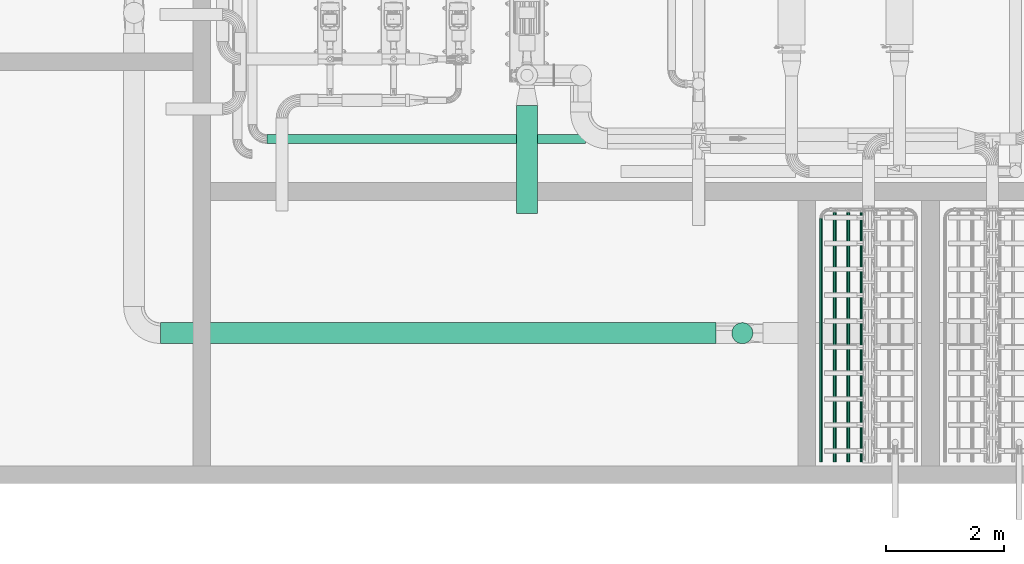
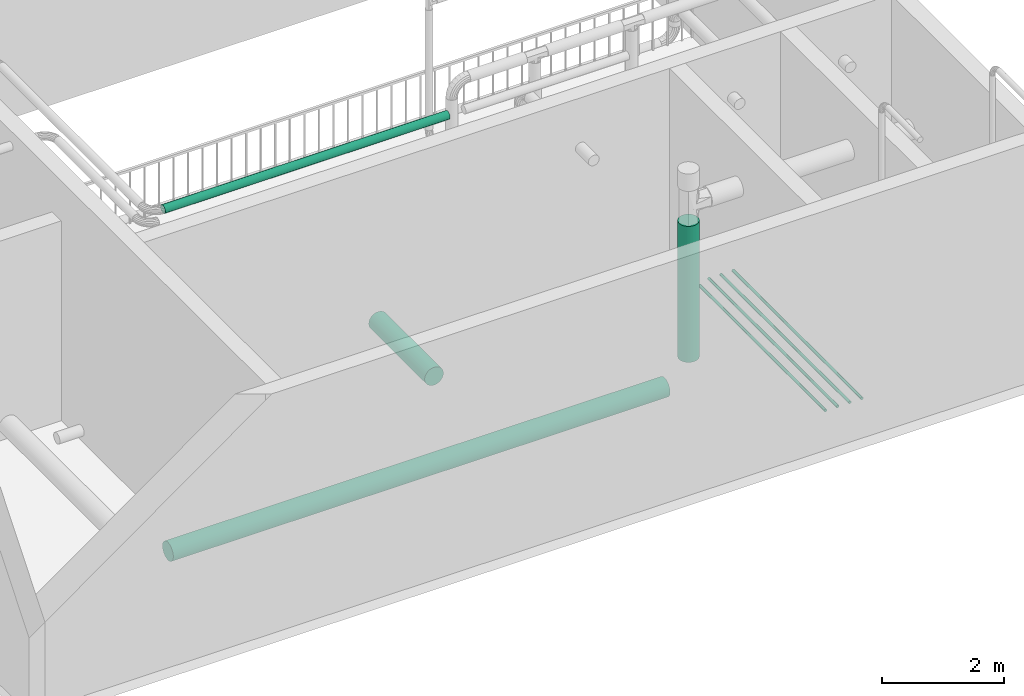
# One storey, part 5 of 28: 8 flow segments.
"""IFC2X3 building model written with IfcOpenShell, lengths in millimetres."""

from ifc_helpers import new_model, entity, si_unit, converted_unit, direction, frame, frame_2d, origin, origin_2d_with_axis, place, context, subcontext, project, spatial, circle, extrude, material, type_object, element, save


model = new_model("IFC2X3")

# Units and contexts
model_context = context("Model", 3, precision=0.01, world=origin(), true_north=direction((6.123031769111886e-17, 1.0)))
body_context = subcontext(model_context, "Body", "Model", "MODEL_VIEW")
ifc_project = project(units=[si_unit("LENGTHUNIT", "METRE", prefix="MILLI"), converted_unit("PLANEANGLEUNIT", "DEGREE", entity("IfcPlaneAngleMeasure", 0.017453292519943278), si_unit("PLANEANGLEUNIT", "RADIAN"), dimensions=[0, 0, 0, 0, 0, 0, 0]), si_unit("AREAUNIT", "SQUARE_METRE")], contexts=[model_context])

# Site, building, storey
site_placement = place(None, frame((7776.576483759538, 118.3519876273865, 0.0)))
site = spatial("IfcSite", under=ifc_project, at=site_placement, Name="Default", CompositionType="ELEMENT")
building_placement = place(site_placement, origin())
building = spatial("IfcBuilding", under=site, at=building_placement, Name="Bygning (endres i Project Information)", CompositionType="ELEMENT")
storey_placement = place(building_placement, frame((0.0, 0.0, 14000.0)))
storey = spatial("IfcBuildingStorey", under=building, at=storey_placement, Name="Plan U1 - Arbeid", CompositionType="ELEMENT", Elevation=14000.000000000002)

# Flow segments
ifc_material = material(Name="SS 2343 Rustfritt stål, prosessrør, generisk")
pipe_segment_type = type_object("IfcPipeSegmentType", Name="Pipe Types:AISI 304L Rustfritt", PredefinedType="NOTDEFINED", material=ifc_material)
flow_segment_1_placement = place(storey_placement, origin())
element("IfcFlowSegment", 1, at=flow_segment_1_placement, inside=storey, type_object=pipe_segment_type, Name="Pipe Types:AISI 304L Rustfritt", ObjectType="Pipe Types:AISI 304L Rustfritt", context=body_context, shape_type="SweptSolid", body=[
    extrude(circle(Radius=78.0, at=frame_2d((0.0, -2.1657342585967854e-12), x_axis=(1.0, 0.0))), frame((18780.00137486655, 25237.75730578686, 4500.0), z_axis=(1.0, 0.0, 0.0), x_axis=(0.0, 1.0, 0.0)), (0.0, 0.0, 1.0), 5394.00000000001),
])
flow_segment_2_placement = place(storey_placement, origin())
element("IfcFlowSegment", 2, at=flow_segment_2_placement, inside=storey, type_object=pipe_segment_type, Name="Pipe Types:AISI 304L Rustfritt", ObjectType="Pipe Types:AISI 304L Rustfritt", context=body_context, shape_type="SweptSolid", body=[
    extrude(circle(Radius=178.0, at=frame_2d((4.331468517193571e-12, 2.1657342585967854e-12), x_axis=(1.0, 0.0))), frame((23184.00137486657, 23972.377048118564, 380.0), z_axis=(0.0, 1.0, 0.0), x_axis=(-1.0, 0.0, 0.0)), (0.0, 0.0, 1.0), 1836.122862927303),
])
flow_segment_3_placement = place(storey_placement, origin())
element("IfcFlowSegment", 3, at=flow_segment_3_placement, inside=storey, type_object=pipe_segment_type, Name="Pipe Types:AISI 304L Rustfritt", ObjectType="Pipe Types:AISI 304L Rustfritt", context=body_context, shape_type="SweptSolid", body=[
    extrude(circle(Radius=178.0, at=origin_2d_with_axis()), frame((26834.001374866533, 21947.75730578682, 728.0)), (0.0, 0.0, 1.0), 2724.9999999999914),
])
flow_segment_4_placement = place(storey_placement, origin())
element("IfcFlowSegment", 4, at=flow_segment_4_placement, inside=storey, type_object=pipe_segment_type, Name="Pipe Types:AISI 304L Rustfritt", ObjectType="Pipe Types:AISI 304L Rustfritt", context=body_context, shape_type="SweptSolid", body=[
    extrude(circle(Radius=178.0, at=frame_2d((-2.1657342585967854e-11, 1.5160139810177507e-11), x_axis=(1.0, 0.0))), frame((16974.001374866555, 21947.757305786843, 278.0), z_axis=(1.0, 0.0, 0.0), x_axis=(0.0, 1.0, 0.0)), (0.0, 0.0, 1.0), 9409.99999999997),
])
flow_segment_5_placement = place(storey_placement, origin())
element("IfcFlowSegment", 5, at=flow_segment_5_placement, inside=storey, type_object=pipe_segment_type, Name="Pipe Types:AISI 304L Rustfritt", ObjectType="Pipe Types:AISI 304L Rustfritt", context=body_context, shape_type="SweptSolid", body=[
    extrude(circle(Radius=27.0, at=frame_2d((-4.331468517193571e-12, 0.0), x_axis=(1.0, 0.0))), frame((28169.00137486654, 19762.757305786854, 500.0), z_axis=(0.0, 1.0, 0.0), x_axis=(-1.0, 0.0, 0.0)), (0.0, 0.0, 1.0), 4130.000000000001),
])
flow_segment_6_placement = place(storey_placement, origin())
element("IfcFlowSegment", 6, at=flow_segment_6_placement, inside=storey, type_object=pipe_segment_type, Name="Pipe Types:AISI 304L Rustfritt", ObjectType="Pipe Types:AISI 304L Rustfritt", context=body_context, shape_type="SweptSolid", body=[
    extrude(circle(Radius=27.0, at=frame_2d((-4.331468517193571e-12, 0.0), x_axis=(1.0, 0.0))), frame((28399.00137486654, 19762.757305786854, 500.0), z_axis=(0.0, 1.0, 0.0), x_axis=(-1.0, 0.0, 0.0)), (0.0, 0.0, 1.0), 4230.0),
])
flow_segment_7_placement = place(storey_placement, origin())
element("IfcFlowSegment", 7, at=flow_segment_7_placement, inside=storey, type_object=pipe_segment_type, Name="Pipe Types:AISI 304L Rustfritt", ObjectType="Pipe Types:AISI 304L Rustfritt", context=body_context, shape_type="SweptSolid", body=[
    extrude(circle(Radius=27.0, at=frame_2d((-4.331468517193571e-12, 0.0), x_axis=(1.0, 0.0))), frame((28629.00137486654, 19762.757305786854, 500.0), z_axis=(0.0, 1.0, 0.0), x_axis=(-1.0, 0.0, 0.0)), (0.0, 0.0, 1.0), 4230.0),
])
flow_segment_8_placement = place(storey_placement, origin())
element("IfcFlowSegment", 8, at=flow_segment_8_placement, inside=storey, type_object=pipe_segment_type, Name="Pipe Types:AISI 304L Rustfritt", ObjectType="Pipe Types:AISI 304L Rustfritt", context=body_context, shape_type="SweptSolid", body=[
    extrude(circle(Radius=27.0, at=origin_2d_with_axis()), frame((28859.001374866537, 19762.757305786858, 500.0), z_axis=(0.0, 1.0, 0.0), x_axis=(-1.0, 0.0, 0.0)), (0.0, 0.0, 1.0), 4229.999999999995),
])

save(model, "model.ifc")
